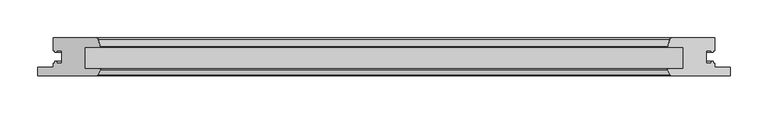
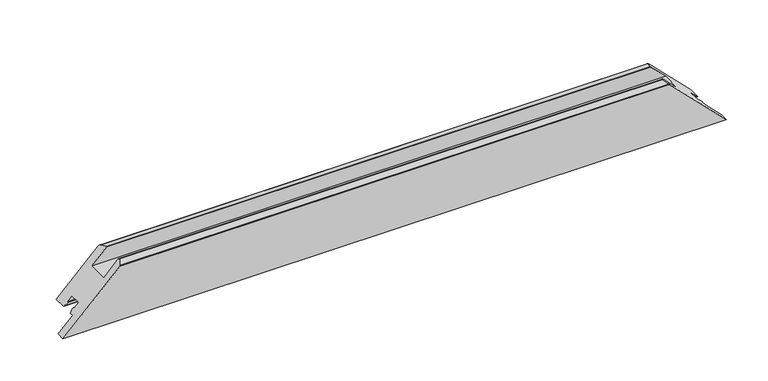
"""IFC4 building model written with IfcOpenShell, lengths in millimetres: proxy geometry, Weiku - Montante - Folha 02.2.01.017 : Weiku - Montante - Folha 02.2.01.017."""

from ifc_helpers import new_model, si_unit, frame, origin, place, context, project, spatial, ellipse_curve, source, transform, mapped, element, save
from ifc_brep_helpers import plane_surface, cylinder_surface, advanced_brep


def generic_models_2f0da024(model_context):
    return source(origin(), model_context, "Body", "AdvancedBrep", [
        advanced_brep(
        [(-436.5, 50.0, 20.0), (-379.4997332, 50.0, 77.0002668), (379.4997332, 50.0, 77.0002668), (436.5, 50.0, 20.0), (-456.5, 0.0, 0.0), (456.5, 0.0, 0.0), (378.4872264, 0.0, 78.0127736), (-378.4872264, 0.0, 78.0127736), (-436.5, 33.1, 20.0), (-434.3, 33.1, 22.2), (-434.3, 31.1, 22.2), (-431.5, 31.1, 25.0), (-431.5, 33.1, 25.0), (-425.0, 33.1, 31.5), (-425.0, 16.9, 31.5), (-431.5, 16.9, 25.0), (-431.5, 18.9, 25.0), (-434.3, 18.9, 22.2), (-434.3, 16.9, 22.2), (-436.5, 16.9, 20.0), (-436.5, 11.5, 20.0), (-456.5, 11.5, 0.0), (-377.5932657, 0.5518546, 78.9067343), (-374.0512796, 7.617411, 82.4487204), (-375.2134285, 9.5, 81.2865715), (-395.0, 9.5, 61.5), (-395.0, 37.5, 61.5), (-374.5, 37.5, 82.0), (-374.0170371, 38.1294095, 82.4829629), (-376.6019557, 47.7764571, 79.8980443), (376.6019557, 47.7764571, 79.8980443), (374.0170371, 38.1294095, 82.4829629), (374.5, 37.5, 82.0), (395.0, 37.5, 61.5), (395.0, 9.5, 61.5), (375.2134285, 9.5, 81.2865715), (374.0512796, 7.617411, 82.4487204), (377.5932657, 0.5518546, 78.9067343), (456.5, 11.5, 0.0), (436.5, 11.5, 20.0), (436.5, 16.9, 20.0), (434.3, 16.9, 22.2), (434.3, 18.9, 22.2), (431.5, 18.9, 25.0), (431.5, 16.9, 25.0), (425.0, 16.9, 31.5), (425.0, 33.1, 31.5), (431.5, 33.1, 25.0), (431.5, 31.1, 25.0), (434.3, 31.1, 22.2), (434.3, 33.1, 22.2), (436.5, 33.1, 20.0)],
        [
            (0, 1),
            (1, 2),
            (2, 3),
            (3, 0),
            (4, 5),
            (5, 6),
            (6, 7),
            (7, 4),
            (0, 8),
            (8, 9),
            (9, 10),
            (10, 11),
            (11, 12),
            (12, 13),
            (13, 14),
            (14, 15),
            (15, 16),
            (16, 17),
            (17, 18),
            (18, 19),
            (19, 20),
            (20, 21),
            (21, 4),
            (7, 22, ellipse_curve(frame((-378.4872264, 1.0, 78.0127736), z_axis=(-0.7071067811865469, 0.0, 0.7071067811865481), x_axis=(-0.7071067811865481, 0.0, -0.7071067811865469)), 1.4142136, 1.0)),
            (22, 23),
            (23, 24, ellipse_curve(frame((-375.2134285, 8.2, 81.2865715), z_axis=(-0.7071067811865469, 0.0, 0.7071067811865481), x_axis=(-0.7071067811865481, 0.0, -0.7071067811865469)), 1.8384776, 1.3)),
            (24, 25),
            (25, 26),
            (26, 27),
            (27, 28, ellipse_curve(frame((-374.5, 38.0, 82.0), z_axis=(-0.7071067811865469, 0.0, 0.7071067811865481), x_axis=(-0.7071067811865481, 0.0, -0.7071067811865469)), 0.7071068, 0.5)),
            (28, 29),
            (29, 1, ellipse_curve(frame((-379.4997332, 47.0, 77.0002668), z_axis=(-0.7071067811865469, 0.0, 0.7071067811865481), x_axis=(-0.7071067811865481, 0.0, -0.7071067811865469)), 4.2426407, 3.0)),
            (2, 30, ellipse_curve(frame((379.4997332, 47.0, 77.0002668), z_axis=(0.707106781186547, 0.0, 0.7071067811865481), x_axis=(-0.7071067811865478, 0.0, 0.707106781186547)), 4.2426407, 3.0)),
            (30, 31),
            (31, 32, ellipse_curve(frame((374.5, 38.0, 82.0), z_axis=(0.707106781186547, 0.0, 0.7071067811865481), x_axis=(-0.7071067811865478, 0.0, 0.707106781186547)), 0.7071068, 0.5)),
            (32, 33),
            (33, 34),
            (34, 35),
            (35, 36, ellipse_curve(frame((375.2134285, 8.2, 81.2865715), z_axis=(0.707106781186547, 0.0, 0.7071067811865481), x_axis=(-0.7071067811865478, 0.0, 0.707106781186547)), 1.8384776, 1.3)),
            (36, 37),
            (37, 6, ellipse_curve(frame((378.4872264, 1.0, 78.0127736), z_axis=(0.707106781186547, 0.0, 0.7071067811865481), x_axis=(-0.7071067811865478, 0.0, 0.707106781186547)), 1.4142136, 1.0)),
            (5, 38),
            (38, 39),
            (39, 40),
            (40, 41),
            (41, 42),
            (42, 43),
            (43, 44),
            (44, 45),
            (45, 46),
            (46, 47),
            (47, 48),
            (48, 49),
            (49, 50),
            (50, 51),
            (51, 3),
            (37, 22),
            (36, 23),
            (35, 24),
            (34, 25),
            (33, 26),
            (32, 27),
            (31, 28),
            (30, 29),
            (51, 8),
            (50, 9),
            (49, 10),
            (48, 11),
            (47, 12),
            (46, 13),
            (45, 14),
            (44, 15),
            (43, 16),
            (42, 17),
            (41, 18),
            (40, 19),
            (39, 20),
            (38, 21),
        ],
        [
            plane_surface(frame((-456.5, 50.0, 77.0002668), z_axis=(0.0, 1.0, 0.0), x_axis=(1.0, 0.0, 0.0))),
            plane_surface(frame((-456.5, 0.0, 0.0), z_axis=(0.0, -1.0, 0.0), x_axis=(1.0, 0.0, 0.0))),
            plane_surface(frame((-484.7842712, 0.0, -28.2842712), z_axis=(-0.7071067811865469, 0.0, 0.7071067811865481), x_axis=(0.0, 1.0, 0.0))),
            plane_surface(frame((366.5, 0.0, 90.0), z_axis=(0.707106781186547, 0.0, 0.7071067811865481), x_axis=(0.0, 1.0, 0.0))),
            cylinder_surface(frame((-456.5, 1.0, 78.0127736), z_axis=(-1.0, 0.0, 0.0), x_axis=(0.0, 1.0, 0.0)), 1.0),
            plane_surface(frame((-456.5, 0.5518546, 78.9067343), z_axis=(0.0, -0.4481453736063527, 0.8939606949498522), x_axis=(1.0, 0.0, 0.0))),
            cylinder_surface(frame((-456.5, 8.2, 81.2865715), z_axis=(-1.0, 0.0, 0.0), x_axis=(0.0, 1.0, 0.0)), 1.3),
            plane_surface(frame((-456.5, 9.5, 81.2865715), z_axis=(0.0, 1.0, 0.0), x_axis=(1.0, 0.0, 0.0))),
            plane_surface(frame((-456.5, 9.5, 61.5), z_axis=(0.0, 0.0, 1.0), x_axis=(1.0, 0.0, 0.0))),
            plane_surface(frame((-456.5, 37.5, 61.5), z_axis=(0.0, -1.0, 0.0), x_axis=(1.0, 0.0, 0.0))),
            cylinder_surface(frame((-456.5, 38.0, 82.0), z_axis=(-1.0, 0.0, 0.0), x_axis=(0.0, 1.0, 0.0)), 0.5),
            plane_surface(frame((-456.5, 38.1294095, 82.4829629), z_axis=(0.0, 0.2588190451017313, 0.9659258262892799), x_axis=(1.0, 0.0, 0.0))),
            cylinder_surface(frame((-456.5, 47.0, 77.0002668), z_axis=(-1.0, 0.0, 0.0), x_axis=(0.0, 1.0, 0.0)), 3.0),
            plane_surface(frame((-456.5, 50.0, 20.0), z_axis=(0.0, 0.0, -1.0), x_axis=(1.0, 0.0, 0.0))),
            plane_surface(frame((-456.5, 33.1, 20.0), z_axis=(0.0, -1.0, 0.0), x_axis=(1.0, 0.0, 0.0))),
            plane_surface(frame((-456.5, 33.1, 22.2), z_axis=(0.0, 0.0, -1.0), x_axis=(1.0, 0.0, 0.0))),
            plane_surface(frame((-456.5, 31.1, 22.2), z_axis=(0.0, -1.0, 0.0), x_axis=(1.0, 0.0, 0.0))),
            plane_surface(frame((-456.5, 31.1, 25.0), z_axis=(0.0, 0.0, 1.0), x_axis=(1.0, 0.0, 0.0))),
            plane_surface(frame((-456.5, 33.1, 25.0), z_axis=(0.0, -1.0, 0.0), x_axis=(1.0, 0.0, 0.0))),
            plane_surface(frame((-456.5, 33.1, 31.5), z_axis=(0.0, 0.0, -1.0), x_axis=(1.0, 0.0, 0.0))),
            plane_surface(frame((-456.5, 16.9, 31.5), z_axis=(0.0, 1.0, 0.0), x_axis=(1.0, 0.0, 0.0))),
            plane_surface(frame((-456.5, 16.9, 25.0), z_axis=(0.0, 0.0, 1.0), x_axis=(1.0, 0.0, 0.0))),
            plane_surface(frame((-456.5, 18.9, 25.0), z_axis=(0.0, 1.0, 0.0), x_axis=(1.0, 0.0, 0.0))),
            plane_surface(frame((-456.5, 18.9, 22.2), z_axis=(0.0, 0.0, -1.0), x_axis=(1.0, 0.0, 0.0))),
            plane_surface(frame((-456.5, 16.9, 22.2), z_axis=(0.0, 1.0, 0.0), x_axis=(1.0, 0.0, 0.0))),
            plane_surface(frame((-456.5, 16.9, 20.0), z_axis=(0.0, 0.0, -1.0), x_axis=(1.0, 0.0, 0.0))),
            plane_surface(frame((-456.5, 11.5, 20.0), z_axis=(0.0, 1.0, 0.0), x_axis=(1.0, 0.0, 0.0))),
            plane_surface(frame((-456.5, 11.5, 0.0), z_axis=(0.0, 0.0, -1.0), x_axis=(1.0, 0.0, 0.0))),
        ],
        [
            (0, [[1, 2, 3, 4]]),
            (1, [[5, 6, 7, 8]]),
            (2, [[-1, 9, 10, 11, 12, 13, 14, 15, 16, 17, 18, 19, 20, 21, 22, 23, -8, 24, 25, 26, 27, 28, 29, 30, 31, 32]]),
            (3, [[-3, 33, 34, 35, 36, 37, 38, 39, 40, 41, -6, 42, 43, 44, 45, 46, 47, 48, 49, 50, 51, 52, 53, 54, 55, 56]]),
            (4, [[-24, -7, -41, 57]]),
            (5, [[-25, -57, -40, 58]]),
            (6, [[-26, -58, -39, 59]]),
            (7, [[-27, -59, -38, 60]]),
            (8, [[-28, -60, -37, 61]]),
            (9, [[-29, -61, -36, 62]]),
            (10, [[-30, -62, -35, 63]]),
            (11, [[-31, -63, -34, 64]]),
            (12, [[-32, -64, -33, -2]]),
            (13, [[-9, -4, -56, 65]]),
            (14, [[-10, -65, -55, 66]]),
            (15, [[-11, -66, -54, 67]]),
            (16, [[-12, -67, -53, 68]]),
            (17, [[-13, -68, -52, 69]]),
            (18, [[-14, -69, -51, 70]]),
            (19, [[-15, -70, -50, 71]]),
            (20, [[-16, -71, -49, 72]]),
            (21, [[-17, -72, -48, 73]]),
            (22, [[-18, -73, -47, 74]]),
            (23, [[-19, -74, -46, 75]]),
            (24, [[-20, -75, -45, 76]]),
            (25, [[-21, -76, -44, 77]]),
            (26, [[78, -22, -77, -43]]),
            (27, [[-5, -23, -78, -42]]),
        ],
    ),
    ])


if __name__ == "__main__":
    model = new_model("IFC4")
    model_context = context("Model", 3, world=origin())
    ifc_project = project(units=[si_unit("LENGTHUNIT", "METRE", prefix="MILLI")], contexts=[model_context])
    site = spatial("IfcSite", under=ifc_project)
    building = spatial("IfcBuilding", under=site)
    placement = place(None, origin())
    generic_models_shape = generic_models_2f0da024(model_context)
    element("IfcBuildingElementProxy", 1, Name="Weiku - Montante - Folha 02.2.01.017 : Weiku - Montante - Folha 02.2.01.017", ObjectType="Weiku - Montante - Folha 02.2.01.017 : Weiku - Montante - Folha 02.2.01.017", at=placement, inside=building, context=model_context, shape_type="MappedRepresentation", body=[
        mapped(generic_models_shape, transform((0.0, 0.0, 0.0), x_axis=(1.0, 0.0, 0.0), y_axis=(0.0, 1.0, 0.0), z_axis=(0.0, 0.0, 1.0))),
    ])
    save(model, "model.ifc")
